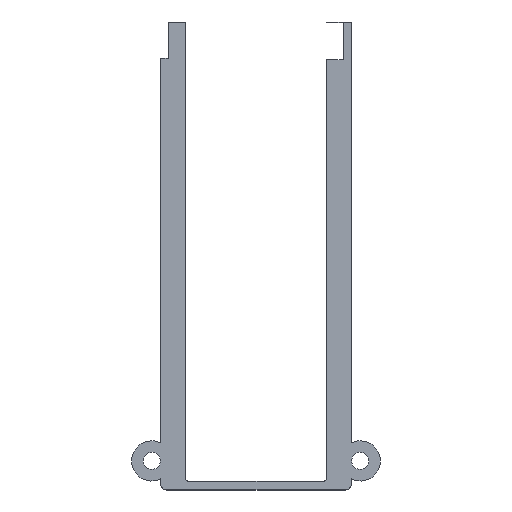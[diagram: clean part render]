
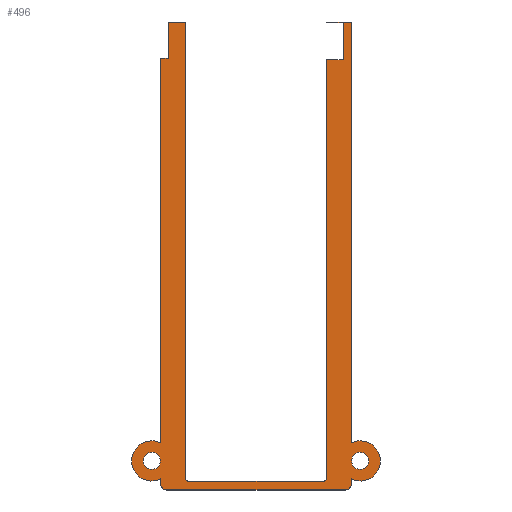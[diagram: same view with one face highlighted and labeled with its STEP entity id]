
A CAD part, top view. The second image highlights one B-rep face of the part: STEP entity #496.
In plain terms, the highlighted planar face has unit normal (0, 0, 1).
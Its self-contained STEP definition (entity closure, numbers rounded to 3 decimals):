
#25=FACE_BOUND('',#75,.T.);
#26=FACE_BOUND('',#76,.T.);
#35=CIRCLE('',#544,2.7);
#36=CIRCLE('',#546,0.8);
#37=CIRCLE('',#547,0.8);
#38=CIRCLE('',#548,2.7);
#39=CIRCLE('',#549,0.5);
#40=CIRCLE('',#550,0.5);
#41=CIRCLE('',#551,1.15);
#42=CIRCLE('',#552,1.15);
#46=FACE_OUTER_BOUND('',#74,.T.);
#74=EDGE_LOOP('',(#363,#364,#365,#366,#367,#368,#369,#370,#371,#372,#373,
#374,#375,#376,#377,#378,#379,#380,#381,#382,#383,#384));
#75=EDGE_LOOP('',(#385));
#76=EDGE_LOOP('',(#386));
#101=LINE('',#725,#157);
#119=LINE('',#781,#175);
#120=LINE('',#785,#176);
#121=LINE('',#789,#177);
#122=LINE('',#791,#178);
#123=LINE('',#793,#179);
#124=LINE('',#795,#180);
#125=LINE('',#797,#181);
#126=LINE('',#799,#182);
#127=LINE('',#801,#183);
#128=LINE('',#805,#184);
#129=LINE('',#809,#185);
#130=LINE('',#811,#186);
#131=LINE('',#813,#187);
#132=LINE('',#815,#188);
#133=LINE('',#816,#189);
#157=VECTOR('',#581,1.);
#175=VECTOR('',#625,1.);
#176=VECTOR('',#628,1.);
#177=VECTOR('',#631,1.);
#178=VECTOR('',#632,1.);
#179=VECTOR('',#633,1.);
#180=VECTOR('',#634,1.);
#181=VECTOR('',#635,1.);
#182=VECTOR('',#636,1.);
#183=VECTOR('',#637,1.);
#184=VECTOR('',#640,1.);
#185=VECTOR('',#643,1.);
#186=VECTOR('',#644,1.);
#187=VECTOR('',#645,1.);
#188=VECTOR('',#646,1.);
#189=VECTOR('',#647,1.);
#213=VERTEX_POINT('',#722);
#214=VERTEX_POINT('',#724);
#237=VERTEX_POINT('',#774);
#238=VERTEX_POINT('',#778);
#239=VERTEX_POINT('',#780);
#240=VERTEX_POINT('',#782);
#241=VERTEX_POINT('',#784);
#242=VERTEX_POINT('',#786);
#243=VERTEX_POINT('',#788);
#244=VERTEX_POINT('',#790);
#245=VERTEX_POINT('',#792);
#246=VERTEX_POINT('',#794);
#247=VERTEX_POINT('',#796);
#248=VERTEX_POINT('',#798);
#249=VERTEX_POINT('',#800);
#250=VERTEX_POINT('',#802);
#251=VERTEX_POINT('',#804);
#252=VERTEX_POINT('',#806);
#253=VERTEX_POINT('',#808);
#254=VERTEX_POINT('',#810);
#255=VERTEX_POINT('',#812);
#256=VERTEX_POINT('',#814);
#257=VERTEX_POINT('',#817);
#258=VERTEX_POINT('',#819);
#261=EDGE_CURVE('',#213,#214,#101,.T.);
#286=EDGE_CURVE('',#237,#214,#35,.T.);
#288=EDGE_CURVE('',#238,#213,#36,.T.);
#289=EDGE_CURVE('',#238,#239,#119,.T.);
#290=EDGE_CURVE('',#240,#239,#37,.T.);
#291=EDGE_CURVE('',#240,#241,#120,.T.);
#292=EDGE_CURVE('',#241,#242,#38,.T.);
#293=EDGE_CURVE('',#242,#243,#121,.T.);
#294=EDGE_CURVE('',#243,#244,#122,.T.);
#295=EDGE_CURVE('',#244,#245,#123,.T.);
#296=EDGE_CURVE('',#246,#245,#124,.T.);
#297=EDGE_CURVE('',#247,#246,#125,.T.);
#298=EDGE_CURVE('',#247,#248,#126,.T.);
#299=EDGE_CURVE('',#248,#249,#127,.T.);
#300=EDGE_CURVE('',#249,#250,#39,.T.);
#301=EDGE_CURVE('',#250,#251,#128,.T.);
#302=EDGE_CURVE('',#251,#252,#40,.T.);
#303=EDGE_CURVE('',#252,#253,#129,.T.);
#304=EDGE_CURVE('',#253,#254,#130,.T.);
#305=EDGE_CURVE('',#255,#254,#131,.T.);
#306=EDGE_CURVE('',#255,#256,#132,.T.);
#307=EDGE_CURVE('',#237,#256,#133,.T.);
#308=EDGE_CURVE('',#257,#257,#41,.T.);
#309=EDGE_CURVE('',#258,#258,#42,.T.);
#363=ORIENTED_EDGE('',*,*,#261,.F.);
#364=ORIENTED_EDGE('',*,*,#288,.F.);
#365=ORIENTED_EDGE('',*,*,#289,.T.);
#366=ORIENTED_EDGE('',*,*,#290,.F.);
#367=ORIENTED_EDGE('',*,*,#291,.T.);
#368=ORIENTED_EDGE('',*,*,#292,.T.);
#369=ORIENTED_EDGE('',*,*,#293,.T.);
#370=ORIENTED_EDGE('',*,*,#294,.T.);
#371=ORIENTED_EDGE('',*,*,#295,.T.);
#372=ORIENTED_EDGE('',*,*,#296,.F.);
#373=ORIENTED_EDGE('',*,*,#297,.F.);
#374=ORIENTED_EDGE('',*,*,#298,.T.);
#375=ORIENTED_EDGE('',*,*,#299,.T.);
#376=ORIENTED_EDGE('',*,*,#300,.T.);
#377=ORIENTED_EDGE('',*,*,#301,.T.);
#378=ORIENTED_EDGE('',*,*,#302,.T.);
#379=ORIENTED_EDGE('',*,*,#303,.T.);
#380=ORIENTED_EDGE('',*,*,#304,.T.);
#381=ORIENTED_EDGE('',*,*,#305,.F.);
#382=ORIENTED_EDGE('',*,*,#306,.T.);
#383=ORIENTED_EDGE('',*,*,#307,.F.);
#384=ORIENTED_EDGE('',*,*,#286,.T.);
#385=ORIENTED_EDGE('',*,*,#308,.F.);
#386=ORIENTED_EDGE('',*,*,#309,.F.);
#477=PLANE('',#545);
#496=ADVANCED_FACE('',(#46,#25,#26),#477,.T.);
#544=AXIS2_PLACEMENT_3D('',#775,#618,#619);
#545=AXIS2_PLACEMENT_3D('',#777,#621,#622);
#546=AXIS2_PLACEMENT_3D('',#779,#623,#624);
#547=AXIS2_PLACEMENT_3D('',#783,#626,#627);
#548=AXIS2_PLACEMENT_3D('',#787,#629,#630);
#549=AXIS2_PLACEMENT_3D('',#803,#638,#639);
#550=AXIS2_PLACEMENT_3D('',#807,#641,#642);
#551=AXIS2_PLACEMENT_3D('',#818,#648,#649);
#552=AXIS2_PLACEMENT_3D('',#820,#650,#651);
#581=DIRECTION('',(0.,1.,0.));
#618=DIRECTION('center_axis',(0.,0.,1.));
#619=DIRECTION('ref_axis',(1.,0.,0.));
#621=DIRECTION('center_axis',(0.,0.,1.));
#622=DIRECTION('ref_axis',(1.,0.,0.));
#623=DIRECTION('center_axis',(0.,0.,-1.));
#624=DIRECTION('ref_axis',(-1.,0.,0.));
#625=DIRECTION('',(1.,0.,0.));
#626=DIRECTION('center_axis',(0.,0.,-1.));
#627=DIRECTION('ref_axis',(-1.,0.,0.));
#628=DIRECTION('',(0.,1.,0.));
#629=DIRECTION('center_axis',(0.,0.,1.));
#630=DIRECTION('ref_axis',(-0.444,-0.896,0.));
#631=DIRECTION('',(0.,1.,0.));
#632=DIRECTION('',(-1.,0.,0.));
#633=DIRECTION('',(0.,-1.,0.));
#634=DIRECTION('',(-1.,0.,0.));
#635=DIRECTION('',(0.,1.,0.));
#636=DIRECTION('',(-1.,0.,0.));
#637=DIRECTION('',(0.,-1.,0.));
#638=DIRECTION('center_axis',(0.,0.,-1.));
#639=DIRECTION('ref_axis',(1.,0.,0.));
#640=DIRECTION('',(-1.,0.,0.));
#641=DIRECTION('center_axis',(0.,0.,-1.));
#642=DIRECTION('ref_axis',(1.,0.,0.));
#643=DIRECTION('',(0.,1.,0.));
#644=DIRECTION('',(-1.,0.,0.));
#645=DIRECTION('',(0.,1.,0.));
#646=DIRECTION('',(-1.,0.,0.));
#647=DIRECTION('',(0.,1.,0.));
#648=DIRECTION('center_axis',(0.,0.,1.));
#649=DIRECTION('ref_axis',(1.,0.,0.));
#650=DIRECTION('center_axis',(0.,0.,1.));
#651=DIRECTION('ref_axis',(1.,0.,0.));
#722=CARTESIAN_POINT('',(-12.8,-35.1,-19.13));
#724=CARTESIAN_POINT('',(-12.8,-34.419,-19.13));
#725=CARTESIAN_POINT('',(-12.8,16.5,-19.13));
#774=CARTESIAN_POINT('',(-12.8,-29.581,-19.13));
#775=CARTESIAN_POINT('Origin',(-14.,-32.,-19.13));
#777=CARTESIAN_POINT('Origin',(0.,16.5,-19.13));
#778=CARTESIAN_POINT('',(-12.,-35.9,-19.13));
#779=CARTESIAN_POINT('Origin',(-12.,-35.1,-19.13));
#780=CARTESIAN_POINT('',(12.,-35.9,-19.13));
#781=CARTESIAN_POINT('',(0.,-35.9,-19.13));
#782=CARTESIAN_POINT('',(12.8,-35.1,-19.13));
#783=CARTESIAN_POINT('Origin',(12.,-35.1,-19.13));
#784=CARTESIAN_POINT('',(12.8,-34.419,-19.13));
#785=CARTESIAN_POINT('',(12.8,16.5,-19.13));
#786=CARTESIAN_POINT('',(12.8,-29.581,-19.13));
#787=CARTESIAN_POINT('Origin',(14.,-32.,-19.13));
#788=CARTESIAN_POINT('',(12.8,26.95,-19.13));
#789=CARTESIAN_POINT('',(12.8,-29.581,-19.13));
#790=CARTESIAN_POINT('',(9.5,26.95,-19.13));
#791=CARTESIAN_POINT('',(-15.,26.95,-19.13));
#792=CARTESIAN_POINT('',(9.5,26.87,-19.13));
#793=CARTESIAN_POINT('',(9.5,61.25,-19.13));
#794=CARTESIAN_POINT('',(11.7,26.87,-19.13));
#795=CARTESIAN_POINT('',(2.65,26.87,-19.13));
#796=CARTESIAN_POINT('',(11.7,21.86,-19.13));
#797=CARTESIAN_POINT('',(11.7,19.18,-19.13));
#798=CARTESIAN_POINT('',(9.5,21.86,-19.13));
#799=CARTESIAN_POINT('',(2.65,21.86,-19.13));
#800=CARTESIAN_POINT('',(9.5,-34.25,-19.13));
#801=CARTESIAN_POINT('',(9.5,61.25,-19.13));
#802=CARTESIAN_POINT('',(9.,-34.75,-19.13));
#803=CARTESIAN_POINT('Origin',(9.,-34.25,-19.13));
#804=CARTESIAN_POINT('',(-9.,-34.75,-19.13));
#805=CARTESIAN_POINT('',(-4.5,-34.75,-19.13));
#806=CARTESIAN_POINT('',(-9.5,-34.25,-19.13));
#807=CARTESIAN_POINT('Origin',(-9.,-34.25,-19.13));
#808=CARTESIAN_POINT('',(-9.5,26.95,-19.13));
#809=CARTESIAN_POINT('',(-9.5,-34.25,-19.13));
#810=CARTESIAN_POINT('',(-11.8,26.95,-19.13));
#811=CARTESIAN_POINT('',(-15.,26.95,-19.13));
#812=CARTESIAN_POINT('',(-11.8,22.09,-19.13));
#813=CARTESIAN_POINT('',(-11.8,19.295,-19.13));
#814=CARTESIAN_POINT('',(-12.8,22.09,-19.13));
#815=CARTESIAN_POINT('',(-9.1,22.09,-19.13));
#816=CARTESIAN_POINT('',(-12.8,16.5,-19.13));
#817=CARTESIAN_POINT('',(-15.15,-32.,-19.13));
#818=CARTESIAN_POINT('Origin',(-14.,-32.,-19.13));
#819=CARTESIAN_POINT('',(12.85,-32.,-19.13));
#820=CARTESIAN_POINT('Origin',(14.,-32.,-19.13));
